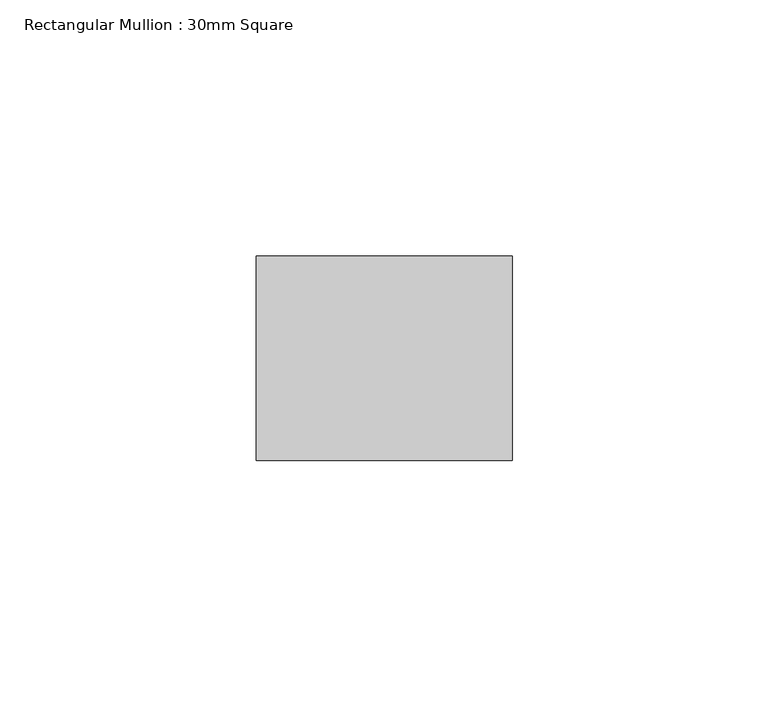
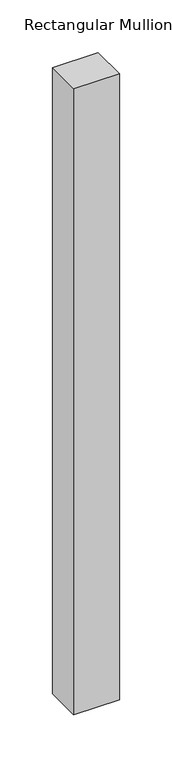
"""IFC4 building model written with IfcOpenShell, lengths in millimetres: member geometry, Rectangular Mullion : 30mm Square."""

from ifc_helpers import new_model, si_unit, frame, origin, place, context, project, spatial, polyline, outline, extrude, source, transform, mapped, element, save


def rectangular_mullion_30mm_square_283fde36(model_context):
    return source(origin(), model_context, "Body", "SweptSolid", [
        extrude(outline(polyline([(25.0, 20.0), (25.0, -20.0), (-25.0, -20.0), (-25.0, 20.0), (25.0, 20.0)])), frame((0.0, 0.0, -725.0), z_axis=(0.0, 0.0, 1.0), x_axis=(1.0, 0.0, 0.0)), (0.0, 0.0, 1.0), 725.0),
    ])


if __name__ == "__main__":
    model = new_model("IFC4")
    model_context = context("Model", 3, world=origin())
    ifc_project = project(units=[si_unit("LENGTHUNIT", "METRE", prefix="MILLI")], contexts=[model_context])
    site = spatial("IfcSite", under=ifc_project)
    building = spatial("IfcBuilding", under=site)
    placement = place(None, origin())
    rectangular_mullion_30mm_square_shape = rectangular_mullion_30mm_square_283fde36(model_context)
    element("IfcMember", 1, ObjectType="Rectangular Mullion : 30mm Square", at=placement, inside=building, context=model_context, shape_type="MappedRepresentation", body=[
        mapped(rectangular_mullion_30mm_square_shape, transform((0.0, 0.0, 0.0), x_axis=(1.0, 0.0, 0.0), y_axis=(0.0, 1.0, 0.0), z_axis=(0.0, 0.0, 1.0))),
    ])
    save(model, "model.ifc")
